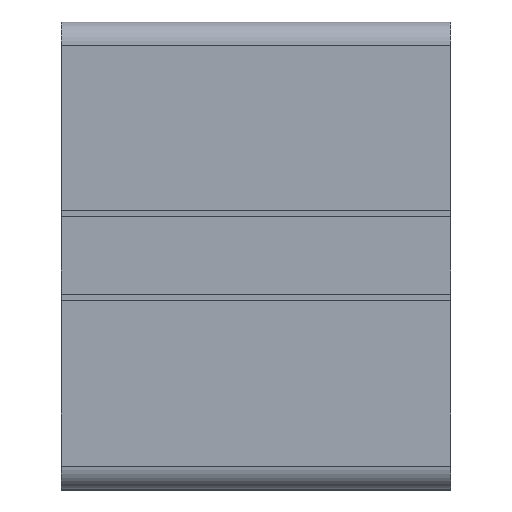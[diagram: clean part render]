
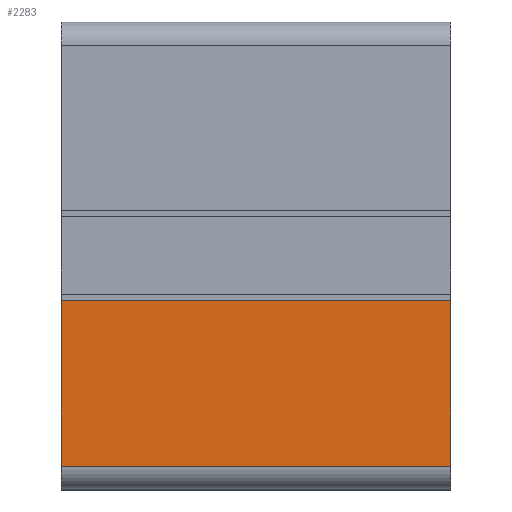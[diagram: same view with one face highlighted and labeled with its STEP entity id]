
A CAD part, top view. The second image highlights one B-rep face of the part: STEP entity #2283.
In plain terms, the highlighted planar face has unit normal (0, 0, 1).
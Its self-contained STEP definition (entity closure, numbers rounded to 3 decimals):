
#957=VERTEX_POINT('',#2526);
#1117=EDGE_CURVE('',#1845,#957,#2700,.T.);
#1529=VERTEX_POINT('',#3155);
#1535=VERTEX_POINT('',#3161);
#1565=EDGE_CURVE('',#1845,#1529,#3193,.T.);
#1747=EDGE_CURVE('',#957,#1535,#3401,.T.);
#1845=VERTEX_POINT('',#3508);
#1991=EDGE_CURVE('',#1535,#1529,#3666,.T.);
#2283=ADVANCED_FACE('',(#3980),#3981,.T.);
#2526=CARTESIAN_POINT('',(0.0,-27.0,22.5));
#2700=LINE('',#4559,#4560);
#3155=CARTESIAN_POINT('',(50.0,-5.8,22.5));
#3161=CARTESIAN_POINT('',(50.0,-27.0,22.5));
#3193=LINE('',#5244,#5245);
#3401=LINE('',#5527,#5528);
#3508=CARTESIAN_POINT('',(0.0,-5.8,22.5));
#3666=LINE('',#5904,#5905);
#3980=FACE_OUTER_BOUND('',#6359,.T.);
#3981=PLANE('',#6360);
#4559=CARTESIAN_POINT('',(0.0,-5.8,22.5));
#4560=VECTOR('',#6749,1.0);
#5244=CARTESIAN_POINT('',(0.0,-5.8,22.5));
#5245=VECTOR('',#7323,1.0);
#5527=CARTESIAN_POINT('',(0.0,-27.0,22.5));
#5528=VECTOR('',#7648,1.0);
#5904=CARTESIAN_POINT('',(50.0,-5.8,22.5));
#5905=VECTOR('',#7897,1.0);
#6359=EDGE_LOOP('',(#8170,#8171,#8172,#8173));
#6360=AXIS2_PLACEMENT_3D('',#8174,#8175,#8176);
#6749=DIRECTION('',(0.0,-1.0,0.0));
#7323=DIRECTION('',(1.0,0.0,0.0));
#7648=DIRECTION('',(1.0,0.0,0.0));
#7897=DIRECTION('',(0.0,1.0,0.0));
#8170=ORIENTED_EDGE('',*,*,#1991,.T.);
#8171=ORIENTED_EDGE('',*,*,#1565,.F.);
#8172=ORIENTED_EDGE('',*,*,#1117,.T.);
#8173=ORIENTED_EDGE('',*,*,#1747,.T.);
#8174=CARTESIAN_POINT('',(0.0,-27.0,22.5));
#8175=DIRECTION('',(0.0,0.0,1.0));
#8176=DIRECTION('',(0.0,-1.0,0.0));
